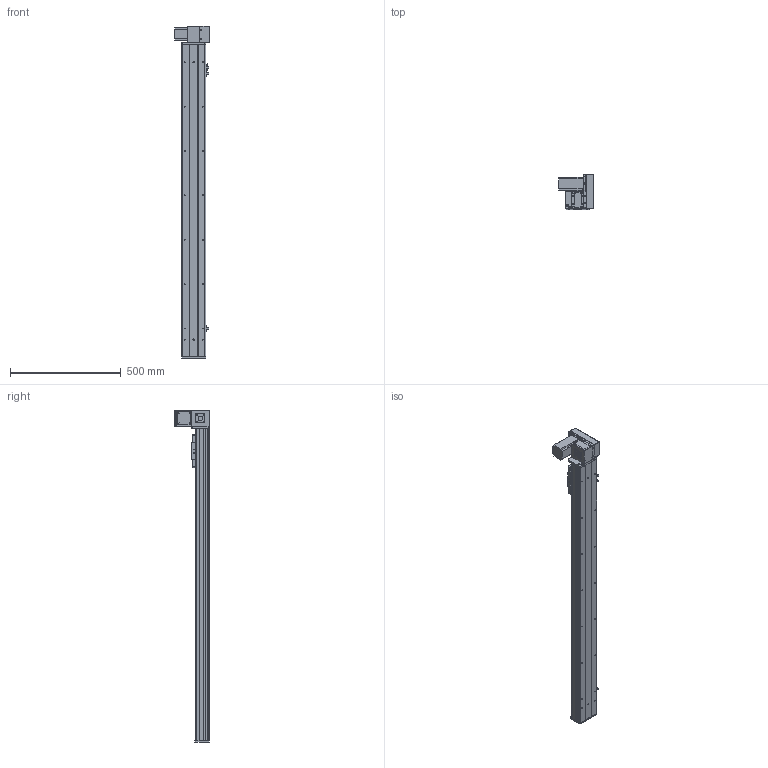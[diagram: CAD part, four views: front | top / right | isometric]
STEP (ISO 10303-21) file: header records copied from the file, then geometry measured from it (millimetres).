
FILE_DESCRIPTION (( 'STEP AP203' ), '1' );
FILE_NAME ('Y10CB-D90-S1150-UR-P400W.STEP', '2020-02-16T03:34:07', ( '微软用户' ), ( '微软中国' ), 'SwSTEP 2.0', 'SolidWorks 2017', '' );
FILE_SCHEMA (( 'CONFIG_CONTROL_DESIGN' ));
Length unit declared in the file: millimetre
Products named in the file (18): Y100-135俋离換覜ん--; 0B-源倛裔啣; Y10B--々湍喘謫眊--666; 0B-埴倛裔啣; Y10B-耜蚾蟀諉啣----; 10CB-詩湍-; 00B-俋欶BM--; Y10CB- 掛极耜裔啣-毀---; 0CB-雄赽釱---; Y10CB-D90-S1150-UR-P400W; Y10C---詩湍揤啣; 0Cb-俋欶---; 10CB9-掛极; Y10B-々湍喘謫眊楊擘啣--; 10CB-耜裔; 0B-萇儂楊擘啣; Y135C-陔俋离換覜結え-; san松下电机400不带刹车----
Assembly tree (21 placements, depth 2):
  Y10CB-D90-S1150-UR-P400W
    0CB-雄赽釱---
    0Cb-俋欶---
    Y10B-々湍喘謫眊楊擘啣--
    0B-萇儂楊擘啣
    san松下电机400不带刹车----
    0B-源倛裔啣
    0B-埴倛裔啣
    10CB-詩湍-
    Y10CB- 掛极耜裔啣-毀---  x2
    Y10C---詩湍揤啣  x2
    10CB9-掛极
    10CB-耜裔
    Y135C-陔俋离換覜結え-
    Y100-135俋离換覜ん--  x3
    Y10B--々湍喘謫眊--666
    Y10B-耜蚾蟀諉啣----
    00B-俋欶BM--
Bounding box: 157 x 155.5 x 1496 mm (x, y, z)
Volume: 3397520.5 mm3; surface area: 1543688.6 mm2
Topology: 21 solids, 21 shells, 1002 faces, 2683 edges, 1754 vertices
Faces by surface type: cylinder 499, plane 479, cone 24
Entity records: 31412 total; most frequent: CARTESIAN_POINT 5617, DIRECTION 5066, ORIENTED_EDGE 4836, EDGE_CURVE 2418, AXIS2_PLACEMENT_3D 1813, VERTEX_POINT 1580, VECTOR 1440, LINE 1440
